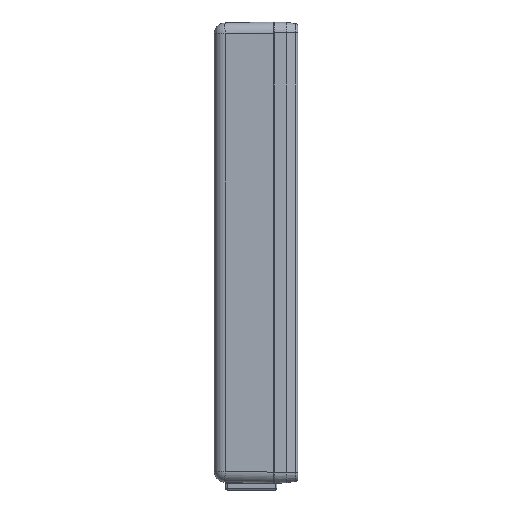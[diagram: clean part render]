
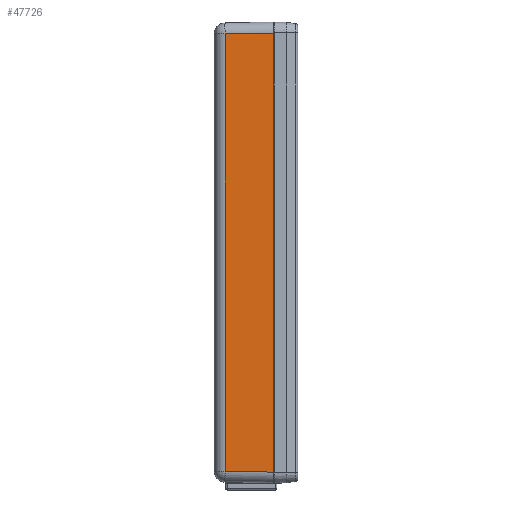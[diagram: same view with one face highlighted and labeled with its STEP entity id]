
A CAD part, left-side view. The second image highlights one B-rep face of the part: STEP entity #47726.
In plain terms, the highlighted planar face has unit normal (-1, 0.018, 0).
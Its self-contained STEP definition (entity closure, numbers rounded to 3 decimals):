
#1568=CARTESIAN_POINT('',(-47.979,1.2,
-59.98));
#11685=DIRECTION('',(0.,0.,-1.));
#11686=VECTOR('',#11685,199.196);
#11687=CARTESIAN_POINT('',(-47.597,23.087,
139.598));
#11688=LINE('',#11687,#11686);
#11693=DIRECTION('',(0.,0.,-1.));
#11694=VECTOR('',#11693,199.959);
#11695=CARTESIAN_POINT('',(-47.979,1.2,
139.98));
#11696=LINE('',#11695,#11694);
#11697=DIRECTION('',(0.017,1.,0.017));
#11698=VECTOR('',#11697,21.894);
#11699=CARTESIAN_POINT('',(-47.979,1.2,
-59.98));
#11700=LINE('',#11699,#11698);
#11701=DIRECTION('',(-0.017,-1.,0.017));
#11702=VECTOR('',#11701,21.894);
#11703=CARTESIAN_POINT('',(-47.597,23.087,
139.598));
#11704=LINE('',#11703,#11702);
#21947=VERTEX_POINT('',#1568);
#21948=CARTESIAN_POINT('',(-47.597,23.087,
-59.598));
#21949=VERTEX_POINT('',#21948);
#21954=CARTESIAN_POINT('',(-47.979,1.2,
139.98));
#21955=VERTEX_POINT('',#21954);
#23965=CARTESIAN_POINT('',(-47.597,23.087,
139.598));
#23966=VERTEX_POINT('',#23965);
#47714=CARTESIAN_POINT('',(-48.,0.,-66.6));
#47715=DIRECTION('',(-1.,0.017,0.));
#47716=DIRECTION('',(0.,0.,-1.));
#47717=AXIS2_PLACEMENT_3D('',#47714,#47715,#47716);
#47718=PLANE('',#47717);
#47719=ORIENTED_EDGE('',*,*,#27520,.T.);
#47720=ORIENTED_EDGE('',*,*,#27497,.T.);
#47721=ORIENTED_EDGE('',*,*,#47698,.F.);
#47723=ORIENTED_EDGE('',*,*,#47722,.T.);
#47724=EDGE_LOOP('',(#47719,#47720,#47721,#47723));
#47725=FACE_OUTER_BOUND('',#47724,.F.);
#27497=EDGE_CURVE('',#21947,#21949,#11700,.T.);
#27520=EDGE_CURVE('',#21955,#21947,#11696,.T.);
#47698=EDGE_CURVE('',#23966,#21949,#11688,.T.);
#47722=EDGE_CURVE('',#23966,#21955,#11704,.T.);
#47726=ADVANCED_FACE('',(#47725),#47718,.T.);
